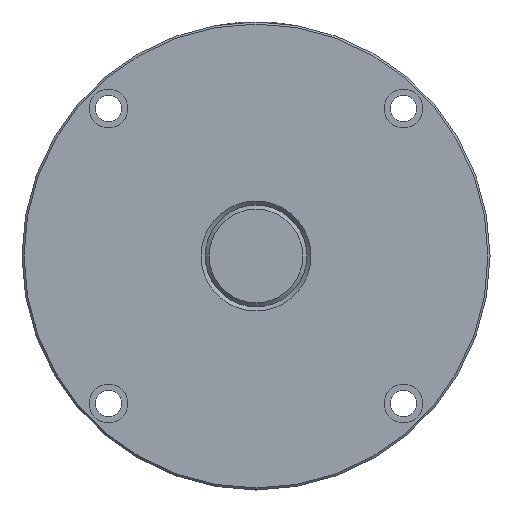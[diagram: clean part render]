
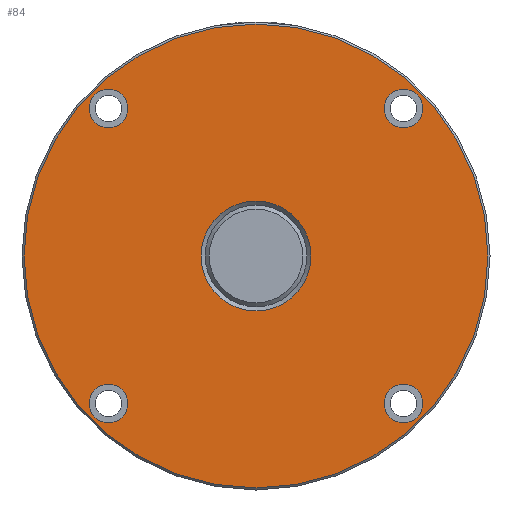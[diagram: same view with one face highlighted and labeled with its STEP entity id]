
A CAD part, left-side view. The second image highlights one B-rep face of the part: STEP entity #84.
In plain terms, the highlighted planar face has unit normal (-1, 0, 0).
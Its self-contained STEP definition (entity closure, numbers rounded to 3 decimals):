
#84 = ADVANCED_FACE( '', ( #137, #138, #139, #140, #141, #142 ), #143, .T. );
#137 = FACE_BOUND( '', #234, .T. );
#138 = FACE_BOUND( '', #235, .T. );
#139 = FACE_BOUND( '', #236, .T. );
#140 = FACE_BOUND( '', #237, .T. );
#141 = FACE_OUTER_BOUND( '', #238, .T. );
#142 = FACE_BOUND( '', #239, .T. );
#143 = PLANE( '', #240 );
#234 = EDGE_LOOP( '', ( #349 ) );
#235 = EDGE_LOOP( '', ( #350 ) );
#236 = EDGE_LOOP( '', ( #351 ) );
#237 = EDGE_LOOP( '', ( #352 ) );
#238 = EDGE_LOOP( '', ( #353 ) );
#239 = EDGE_LOOP( '', ( #354 ) );
#240 = AXIS2_PLACEMENT_3D( '', #355, #356, #357 );
#349 = ORIENTED_EDGE( '', *, *, #475, .T. );
#350 = ORIENTED_EDGE( '', *, *, #476, .T. );
#351 = ORIENTED_EDGE( '', *, *, #477, .T. );
#352 = ORIENTED_EDGE( '', *, *, #478, .T. );
#353 = ORIENTED_EDGE( '', *, *, #479, .T. );
#354 = ORIENTED_EDGE( '', *, *, #480, .F. );
#355 = CARTESIAN_POINT( '', ( 5., 0., 27. ) );
#356 = DIRECTION( '', ( -1., 0., 0. ) );
#357 = DIRECTION( '', ( 0., 0., 1. ) );
#475 = EDGE_CURVE( '', #525, #525, #526, .T. );
#476 = EDGE_CURVE( '', #527, #527, #528, .T. );
#477 = EDGE_CURVE( '', #529, #529, #530, .T. );
#478 = EDGE_CURVE( '', #531, #531, #532, .T. );
#479 = EDGE_CURVE( '', #533, #533, #534, .T. );
#480 = EDGE_CURVE( '', #535, #535, #536, .T. );
#525 = VERTEX_POINT( '', #681 );
#526 = CIRCLE( '', #682, 9.5 );
#527 = VERTEX_POINT( '', #683 );
#528 = CIRCLE( '', #684, 9.5 );
#529 = VERTEX_POINT( '', #685 );
#530 = CIRCLE( '', #686, 9.5 );
#531 = VERTEX_POINT( '', #687 );
#532 = CIRCLE( '', #688, 9.5 );
#533 = VERTEX_POINT( '', #689 );
#534 = CIRCLE( '', #690, 114. );
#535 = VERTEX_POINT( '', #691 );
#536 = CIRCLE( '', #692, 27. );
#681 = CARTESIAN_POINT( '', ( 5., -72.478, -62.978 ) );
#682 = AXIS2_PLACEMENT_3D( '', #761, #762, #763 );
#683 = CARTESIAN_POINT( '', ( 5., 72.478, -62.978 ) );
#684 = AXIS2_PLACEMENT_3D( '', #764, #765, #766 );
#685 = CARTESIAN_POINT( '', ( 5., 72.478, 81.978 ) );
#686 = AXIS2_PLACEMENT_3D( '', #767, #768, #769 );
#687 = CARTESIAN_POINT( '', ( 5., -72.478, 81.978 ) );
#688 = AXIS2_PLACEMENT_3D( '', #770, #771, #772 );
#689 = CARTESIAN_POINT( '', ( 5., 0., 114. ) );
#690 = AXIS2_PLACEMENT_3D( '', #773, #774, #775 );
#691 = CARTESIAN_POINT( '', ( 5., 0., 27. ) );
#692 = AXIS2_PLACEMENT_3D( '', #776, #777, #778 );
#761 = CARTESIAN_POINT( '', ( 5., -72.478, -72.478 ) );
#762 = DIRECTION( '', ( 1., 0., 0. ) );
#763 = DIRECTION( '', ( 0., 0., 1. ) );
#764 = CARTESIAN_POINT( '', ( 5., 72.478, -72.478 ) );
#765 = DIRECTION( '', ( 1., 0., 0. ) );
#766 = DIRECTION( '', ( 0., 0., 1. ) );
#767 = CARTESIAN_POINT( '', ( 5., 72.478, 72.478 ) );
#768 = DIRECTION( '', ( 1., 0., 0. ) );
#769 = DIRECTION( '', ( 0., 0., 1. ) );
#770 = CARTESIAN_POINT( '', ( 5., -72.478, 72.478 ) );
#771 = DIRECTION( '', ( 1., 0., 0. ) );
#772 = DIRECTION( '', ( 0., 0., 1. ) );
#773 = CARTESIAN_POINT( '', ( 5., 0., 0. ) );
#774 = DIRECTION( '', ( -1., 0., 0. ) );
#775 = DIRECTION( '', ( 0., 0., 1. ) );
#776 = CARTESIAN_POINT( '', ( 5., 0., 0. ) );
#777 = DIRECTION( '', ( -1., 0., 0. ) );
#778 = DIRECTION( '', ( 0., 0., 1. ) );
